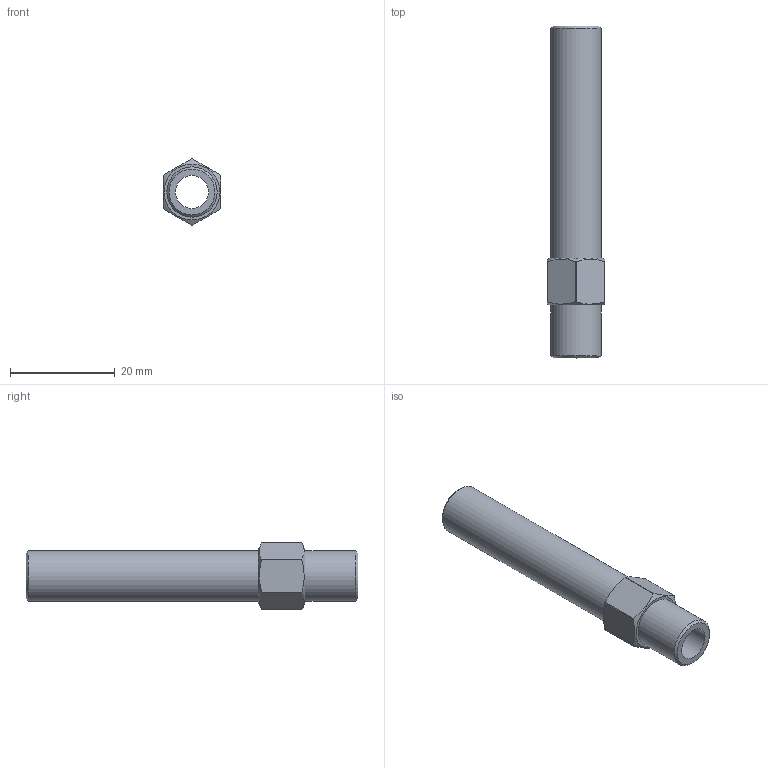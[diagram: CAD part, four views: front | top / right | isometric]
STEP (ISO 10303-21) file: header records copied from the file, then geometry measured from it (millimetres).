
FILE_DESCRIPTION(/* description */ (''),/* implementation_level */ '2;1');
FILE_NAME(/* name */ 'C:/Users/drich/Desktop/APN18-2-1_2 v1.step',/* time_stamp */ '2019-12-27T17:51:25-06:00',/* author */ (''),/* organization */ (''),/* preprocessor_version */ 'ST-DEVELOPER v18',/* originating_system */ 'Autodesk Translation Framework v8.12.0.6',/* authorisation */ '');
FILE_SCHEMA (('AUTOMOTIVE_DESIGN { 1 0 10303 214 3 1 1 }'));
Length unit declared in the file: inch
Products named in the file (1): APN18-2-1_2
Bounding box: 11.07 x 63.5 x 12.7 mm (x, y, z)
Volume: 2891.1 mm3; surface area: 3373 mm2
Topology: 1 solids, 1 shells, 23 faces, 59 edges, 40 vertices
Faces by surface type: plane 10, cylinder 9, cone 4
Full cylindrical faces by diameter (mm): 6.35 x1, 9.621 x2
Entity records: 751 total; most frequent: CARTESIAN_POINT 147, DIRECTION 123, ORIENTED_EDGE 118, EDGE_CURVE 59, AXIS2_PLACEMENT_3D 52, VERTEX_POINT 40, CIRCLE 28, EDGE_LOOP 27
